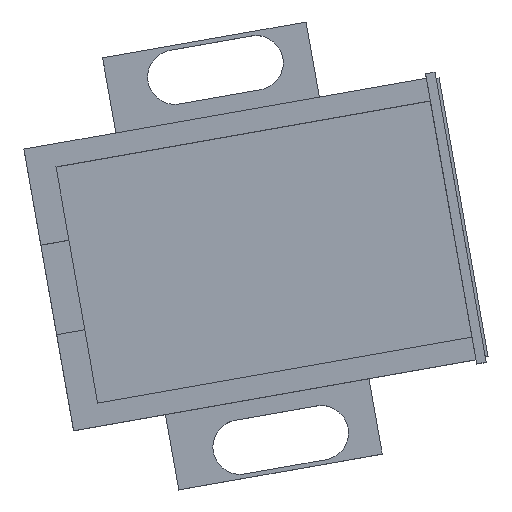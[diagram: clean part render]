
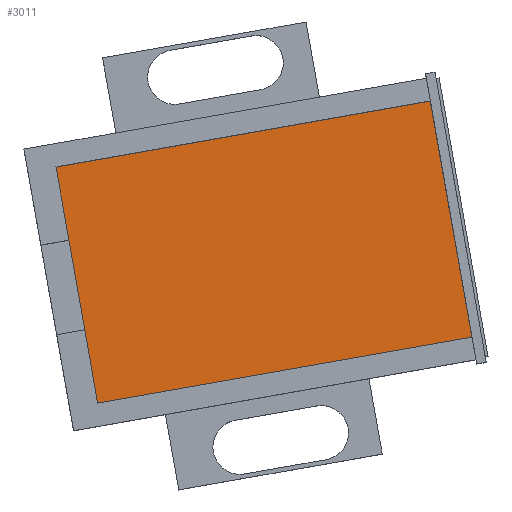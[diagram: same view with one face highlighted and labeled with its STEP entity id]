
A CAD part, top view. The second image highlights one B-rep face of the part: STEP entity #3011.
In plain terms, the highlighted planar face has unit normal (0, 0, 1).
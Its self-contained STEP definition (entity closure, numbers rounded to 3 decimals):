
#1722 = PLANE('',#1723);
#1723 = AXIS2_PLACEMENT_3D('',#1724,#1725,#1726);
#1724 = CARTESIAN_POINT('',(13.99,15.002,3.43));
#1725 = DIRECTION('',(-0.985,-0.174,0.));
#1726 = DIRECTION('',(0.,0.,1.));
#1963 = VERTEX_POINT('',#1964);
#1964 = CARTESIAN_POINT('',(14.381,12.786,3.52));
#1978 = PLANE('',#1979);
#1979 = AXIS2_PLACEMENT_3D('',#1980,#1981,#1982);
#1980 = CARTESIAN_POINT('',(15.159,12.923,3.45));
#1981 = DIRECTION('',(0.174,-0.985,0.));
#1982 = DIRECTION('',(0.,0.,1.));
#1990 = EDGE_CURVE('',#1963,#1991,#1993,.T.);
#1991 = VERTEX_POINT('',#1992);
#1992 = CARTESIAN_POINT('',(17.819,-6.713,3.52));
#1993 = SURFACE_CURVE('',#1994,(#1998,#2005),.PCURVE_S1.);
#1994 = LINE('',#1995,#1996);
#1995 = CARTESIAN_POINT('',(14.033,14.755,3.52));
#1996 = VECTOR('',#1997,1.);
#1997 = DIRECTION('',(0.174,-0.985,0.));
#1998 = PCURVE('',#1722,#1999);
#1999 = DEFINITIONAL_REPRESENTATION('',(#2000),#2004);
#2000 = LINE('',#2001,#2002);
#2001 = CARTESIAN_POINT('',(0.09,-0.25));
#2002 = VECTOR('',#2003,1.);
#2003 = DIRECTION('',(0.,-1.));
#2004 = ( GEOMETRIC_REPRESENTATION_CONTEXT(2) 
PARAMETRIC_REPRESENTATION_CONTEXT() REPRESENTATION_CONTEXT('2D SPACE',''
  ) );
#2005 = PCURVE('',#2006,#2011);
#2006 = PLANE('',#2007);
#2007 = AXIS2_PLACEMENT_3D('',#2008,#2009,#2010);
#2008 = CARTESIAN_POINT('',(15.101,14.69,3.52));
#2009 = DIRECTION('',(0.,0.,1.));
#2010 = DIRECTION('',(-0.985,-0.174,0.));
#2011 = DEFINITIONAL_REPRESENTATION('',(#2012),#2016);
#2012 = LINE('',#2013,#2014);
#2013 = CARTESIAN_POINT('',(1.04,-0.25));
#2014 = VECTOR('',#2015,1.);
#2015 = DIRECTION('',(0.,1.));
#2016 = ( GEOMETRIC_REPRESENTATION_CONTEXT(2) 
PARAMETRIC_REPRESENTATION_CONTEXT() REPRESENTATION_CONTEXT('2D SPACE',''
  ) );
#2034 = PLANE('',#2035);
#2035 = AXIS2_PLACEMENT_3D('',#2036,#2037,#2038);
#2036 = CARTESIAN_POINT('',(18.597,-6.576,3.45));
#2037 = DIRECTION('',(0.174,-0.985,0.));
#2038 = DIRECTION('',(0.,0.,1.));
#2779 = VERTEX_POINT('',#2780);
#2780 = CARTESIAN_POINT('',(-16.503,7.34,3.52));
#2794 = PLANE('',#2795);
#2795 = AXIS2_PLACEMENT_3D('',#2796,#2797,#2798);
#2796 = CARTESIAN_POINT('',(-16.807,9.064,3.45));
#2797 = DIRECTION('',(-0.985,-0.174,0.));
#2798 = DIRECTION('',(0.,0.,1.));
#2806 = EDGE_CURVE('',#2779,#1963,#2807,.T.);
#2807 = SURFACE_CURVE('',#2808,(#2812,#2819),.PCURVE_S1.);
#2808 = LINE('',#2809,#2810);
#2809 = CARTESIAN_POINT('',(15.282,12.945,3.52));
#2810 = VECTOR('',#2811,1.);
#2811 = DIRECTION('',(0.985,0.174,0.));
#2812 = PCURVE('',#1978,#2813);
#2813 = DEFINITIONAL_REPRESENTATION('',(#2814),#2818);
#2814 = LINE('',#2815,#2816);
#2815 = CARTESIAN_POINT('',(0.07,-0.125));
#2816 = VECTOR('',#2817,1.);
#2817 = DIRECTION('',(0.,-1.));
#2818 = ( GEOMETRIC_REPRESENTATION_CONTEXT(2) 
PARAMETRIC_REPRESENTATION_CONTEXT() REPRESENTATION_CONTEXT('2D SPACE',''
  ) );
#2819 = PCURVE('',#2006,#2820);
#2820 = DEFINITIONAL_REPRESENTATION('',(#2821),#2825);
#2821 = LINE('',#2822,#2823);
#2822 = CARTESIAN_POINT('',(0.125,1.75));
#2823 = VECTOR('',#2824,1.);
#2824 = DIRECTION('',(-1.,0.));
#2825 = ( GEOMETRIC_REPRESENTATION_CONTEXT(2) 
PARAMETRIC_REPRESENTATION_CONTEXT() REPRESENTATION_CONTEXT('2D SPACE',''
  ) );
#2876 = EDGE_CURVE('',#2779,#2877,#2879,.T.);
#2877 = VERTEX_POINT('',#2878);
#2878 = CARTESIAN_POINT('',(-13.065,-12.159,3.52));
#2879 = SURFACE_CURVE('',#2880,(#2884,#2891),.PCURVE_S1.);
#2880 = LINE('',#2881,#2882);
#2881 = CARTESIAN_POINT('',(-16.807,9.064,3.52));
#2882 = VECTOR('',#2883,1.);
#2883 = DIRECTION('',(0.174,-0.985,0.));
#2884 = PCURVE('',#2794,#2885);
#2885 = DEFINITIONAL_REPRESENTATION('',(#2886),#2890);
#2886 = LINE('',#2887,#2888);
#2887 = CARTESIAN_POINT('',(0.07,0.));
#2888 = VECTOR('',#2889,1.);
#2889 = DIRECTION('',(0.,-1.));
#2890 = ( GEOMETRIC_REPRESENTATION_CONTEXT(2) 
PARAMETRIC_REPRESENTATION_CONTEXT() REPRESENTATION_CONTEXT('2D SPACE',''
  ) );
#2891 = PCURVE('',#2006,#2892);
#2892 = DEFINITIONAL_REPRESENTATION('',(#2893),#2897);
#2893 = LINE('',#2894,#2895);
#2894 = CARTESIAN_POINT('',(32.4,0.));
#2895 = VECTOR('',#2896,1.);
#2896 = DIRECTION('',(0.,1.));
#2897 = ( GEOMETRIC_REPRESENTATION_CONTEXT(2) 
PARAMETRIC_REPRESENTATION_CONTEXT() REPRESENTATION_CONTEXT('2D SPACE',''
  ) );
#3011 = ADVANCED_FACE('',(#3012),#2006,.T.);
#3012 = FACE_BOUND('',#3013,.T.);
#3013 = EDGE_LOOP('',(#3014,#3015,#3036,#3037));
#3014 = ORIENTED_EDGE('',*,*,#2876,.T.);
#3015 = ORIENTED_EDGE('',*,*,#3016,.T.);
#3016 = EDGE_CURVE('',#2877,#1991,#3017,.T.);
#3017 = SURFACE_CURVE('',#3018,(#3022,#3029),.PCURVE_S1.);
#3018 = LINE('',#3019,#3020);
#3019 = CARTESIAN_POINT('',(18.72,-6.554,3.52));
#3020 = VECTOR('',#3021,1.);
#3021 = DIRECTION('',(0.985,0.174,0.));
#3022 = PCURVE('',#2006,#3023);
#3023 = DEFINITIONAL_REPRESENTATION('',(#3024),#3028);
#3024 = LINE('',#3025,#3026);
#3025 = CARTESIAN_POINT('',(0.125,21.55));
#3026 = VECTOR('',#3027,1.);
#3027 = DIRECTION('',(-1.,0.));
#3028 = ( GEOMETRIC_REPRESENTATION_CONTEXT(2) 
PARAMETRIC_REPRESENTATION_CONTEXT() REPRESENTATION_CONTEXT('2D SPACE',''
  ) );
#3029 = PCURVE('',#2034,#3030);
#3030 = DEFINITIONAL_REPRESENTATION('',(#3031),#3035);
#3031 = LINE('',#3032,#3033);
#3032 = CARTESIAN_POINT('',(0.07,-0.125));
#3033 = VECTOR('',#3034,1.);
#3034 = DIRECTION('',(0.,-1.));
#3035 = ( GEOMETRIC_REPRESENTATION_CONTEXT(2) 
PARAMETRIC_REPRESENTATION_CONTEXT() REPRESENTATION_CONTEXT('2D SPACE',''
  ) );
#3036 = ORIENTED_EDGE('',*,*,#1990,.F.);
#3037 = ORIENTED_EDGE('',*,*,#2806,.F.);
